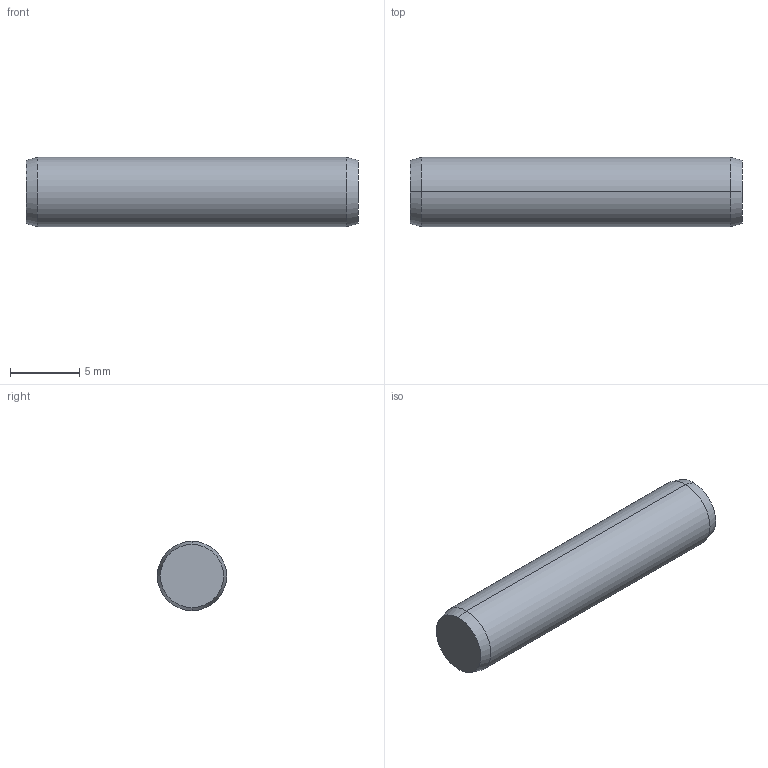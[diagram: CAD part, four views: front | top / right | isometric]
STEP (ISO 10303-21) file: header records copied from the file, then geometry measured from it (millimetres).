
FILE_DESCRIPTION (( 'STEP AP203' ), '1' );
FILE_NAME ('P1206.050-024.step', '2017-06-14T08:16:04', ( 'User' ), ( '' ), 'SwSTEP 2.0', 'SolidWorks 2009', '' );
FILE_SCHEMA (( 'CONFIG_CONTROL_DESIGN' ));
Length unit declared in the file: millimetre
Products named in the file (1): P1206.050-024
Bounding box: 24 x 5 x 5 mm (x, y, z)
Volume: 468.6 mm3; surface area: 409.6 mm2
Topology: 1 solids, 1 shells, 8 faces, 14 edges, 8 vertices
Faces by surface type: cone 4, cylinder 2, plane 2
Entity records: 271 total; most frequent: DIRECTION 40, CARTESIAN_POINT 31, ORIENTED_EDGE 28, AXIS2_PLACEMENT_3D 17, EDGE_CURVE 14, PERSON_AND_ORGANIZATION 8, ADVANCED_FACE 8, EDGE_LOOP 8
